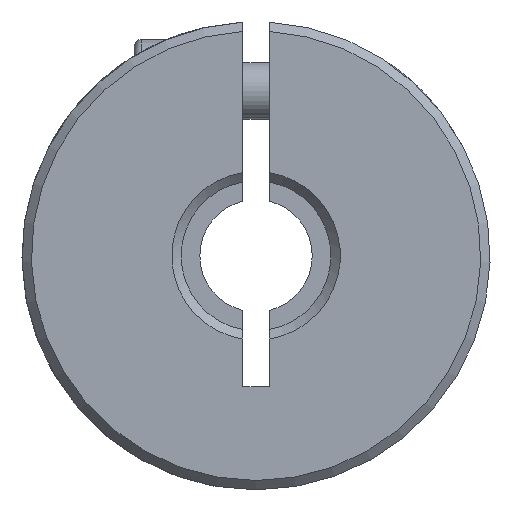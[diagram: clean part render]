
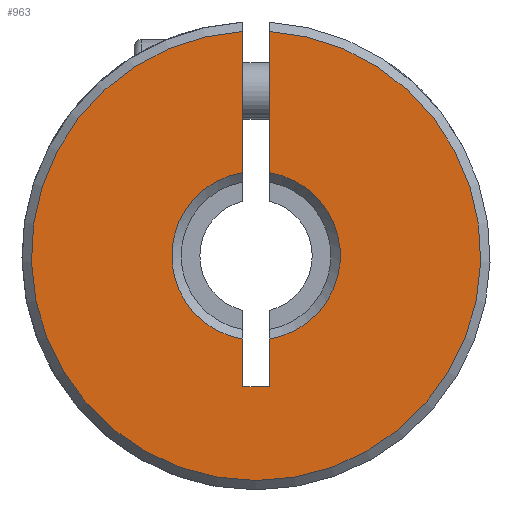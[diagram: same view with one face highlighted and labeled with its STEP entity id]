
A CAD part, front view. The second image highlights one B-rep face of the part: STEP entity #963.
In plain terms, the highlighted planar face has unit normal (0, -1, 0).
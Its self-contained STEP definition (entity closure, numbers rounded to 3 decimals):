
#99 = EDGE_CURVE ( 'NONE', #5144, #5233, #2667, .T. ) ;
#129 = VECTOR ( 'NONE', #3925, 1000. ) ;
#193 = EDGE_CURVE ( 'NONE', #4142, #4157, #5342, .T. ) ;
#330 = DIRECTION ( 'NONE',  ( 0., 1., 0. ) ) ;
#331 = DIRECTION ( 'NONE',  ( 0., 1., 0. ) ) ;
#437 = CARTESIAN_POINT ( 'NONE',  ( -0.7, 0.25, 4.445 ) ) ;
#544 = ORIENTED_EDGE ( 'NONE', *, *, #3749, .T. ) ;
#764 = CARTESIAN_POINT ( 'NONE',  ( 0., 0.25, 0. ) ) ;
#861 = CARTESIAN_POINT ( 'NONE',  ( 0.7, 0.25, 11.98 ) ) ;
#963 = ADVANCED_FACE ( 'NONE', ( #4490 ), #3264, .F. ) ;
#968 = ORIENTED_EDGE ( 'NONE', *, *, #4328, .F. ) ;
#1005 = CARTESIAN_POINT ( 'NONE',  ( 0.7, 0.25, -7. ) ) ;
#1033 = EDGE_CURVE ( 'NONE', #1473, #2945, #4184, .T. ) ;
#1107 = DIRECTION ( 'NONE',  ( 0., 1., 0. ) ) ;
#1228 = ORIENTED_EDGE ( 'NONE', *, *, #5058, .F. ) ;
#1273 = CARTESIAN_POINT ( 'NONE',  ( -0.7, 0.25, -7. ) ) ;
#1447 = VECTOR ( 'NONE', #3032, 1000. ) ;
#1473 = VERTEX_POINT ( 'NONE', #1825 ) ;
#1520 = CARTESIAN_POINT ( 'NONE',  ( -0.7, 0.25, -7. ) ) ;
#1534 = CARTESIAN_POINT ( 'NONE',  ( -0.7, 0.25, -7. ) ) ;
#1617 = DIRECTION ( 'NONE',  ( 0., 0., 1. ) ) ;
#1674 = VERTEX_POINT ( 'NONE', #861 ) ;
#1705 = AXIS2_PLACEMENT_3D ( 'NONE', #5188, #330, #4852 ) ;
#1791 = LINE ( 'NONE', #1005, #129 ) ;
#1825 = CARTESIAN_POINT ( 'NONE',  ( -0.7, 0.25, 11.98 ) ) ;
#1898 = VECTOR ( 'NONE', #4594, 1000. ) ;
#2015 = CIRCLE ( 'NONE', #4280, 12. ) ;
#2060 = CIRCLE ( 'NONE', #3034, 4.5 ) ;
#2097 = CARTESIAN_POINT ( 'NONE',  ( 0.7, 0.25, -7. ) ) ;
#2207 = ORIENTED_EDGE ( 'NONE', *, *, #99, .T. ) ;
#2654 = ORIENTED_EDGE ( 'NONE', *, *, #1033, .F. ) ;
#2657 = VECTOR ( 'NONE', #3361, 1000. ) ;
#2665 = CARTESIAN_POINT ( 'NONE',  ( 0.7, 0.25, -7. ) ) ;
#2667 = CIRCLE ( 'NONE', #1705, 4.5 ) ;
#2676 = CARTESIAN_POINT ( 'NONE',  ( 0.7, 0.25, 4.445 ) ) ;
#2945 = VERTEX_POINT ( 'NONE', #437 ) ;
#3003 = DIRECTION ( 'NONE',  ( 0., -1., 0. ) ) ;
#3032 = DIRECTION ( 'NONE',  ( 0., 0., 1. ) ) ;
#3034 = AXIS2_PLACEMENT_3D ( 'NONE', #4945, #1107, #3644 ) ;
#3167 = EDGE_CURVE ( 'NONE', #1473, #1674, #2015, .T. ) ;
#3193 = DIRECTION ( 'NONE',  ( 0., 0., -1. ) ) ;
#3264 = PLANE ( 'NONE',  #3724 ) ;
#3324 = EDGE_CURVE ( 'NONE', #5144, #1674, #1791, .T. ) ;
#3361 = DIRECTION ( 'NONE',  ( 1., 0., 0. ) ) ;
#3365 = VECTOR ( 'NONE', #3193, 1000. ) ;
#3569 = VERTEX_POINT ( 'NONE', #4675 ) ;
#3644 = DIRECTION ( 'NONE',  ( 0., 0., 1. ) ) ;
#3724 = AXIS2_PLACEMENT_3D ( 'NONE', #4082, #331, #5343 ) ;
#3749 = EDGE_CURVE ( 'NONE', #4142, #2945, #2060, .T. ) ;
#3925 = DIRECTION ( 'NONE',  ( 0., 0., 1. ) ) ;
#3994 = CARTESIAN_POINT ( 'NONE',  ( 0.7, 0.25, -4.445 ) ) ;
#4082 = CARTESIAN_POINT ( 'NONE',  ( 12.5, 0.25, -50. ) ) ;
#4093 = CARTESIAN_POINT ( 'NONE',  ( -0.7, 0.25, -4.445 ) ) ;
#4142 = VERTEX_POINT ( 'NONE', #4093 ) ;
#4157 = VERTEX_POINT ( 'NONE', #1534 ) ;
#4184 = LINE ( 'NONE', #1273, #1898 ) ;
#4251 = LINE ( 'NONE', #2665, #1447 ) ;
#4280 = AXIS2_PLACEMENT_3D ( 'NONE', #764, #3003, #1617 ) ;
#4323 = EDGE_LOOP ( 'NONE', ( #5022, #2207, #968, #1228, #5155, #544, #2654, #4819 ) ) ;
#4328 = EDGE_CURVE ( 'NONE', #3569, #5233, #4251, .T. ) ;
#4490 = FACE_OUTER_BOUND ( 'NONE', #4323, .T. ) ;
#4594 = DIRECTION ( 'NONE',  ( 0., 0., -1. ) ) ;
#4674 = LINE ( 'NONE', #2097, #2657 ) ;
#4675 = CARTESIAN_POINT ( 'NONE',  ( 0.7, 0.25, -7. ) ) ;
#4819 = ORIENTED_EDGE ( 'NONE', *, *, #3167, .T. ) ;
#4852 = DIRECTION ( 'NONE',  ( 0., 0., 1. ) ) ;
#4945 = CARTESIAN_POINT ( 'NONE',  ( 0., 0.25, 0. ) ) ;
#5022 = ORIENTED_EDGE ( 'NONE', *, *, #3324, .F. ) ;
#5058 = EDGE_CURVE ( 'NONE', #4157, #3569, #4674, .T. ) ;
#5144 = VERTEX_POINT ( 'NONE', #2676 ) ;
#5155 = ORIENTED_EDGE ( 'NONE', *, *, #193, .F. ) ;
#5188 = CARTESIAN_POINT ( 'NONE',  ( 0., 0.25, 0. ) ) ;
#5233 = VERTEX_POINT ( 'NONE', #3994 ) ;
#5342 = LINE ( 'NONE', #1520, #3365 ) ;
#5343 = DIRECTION ( 'NONE',  ( 0., 0., 1. ) ) ;
